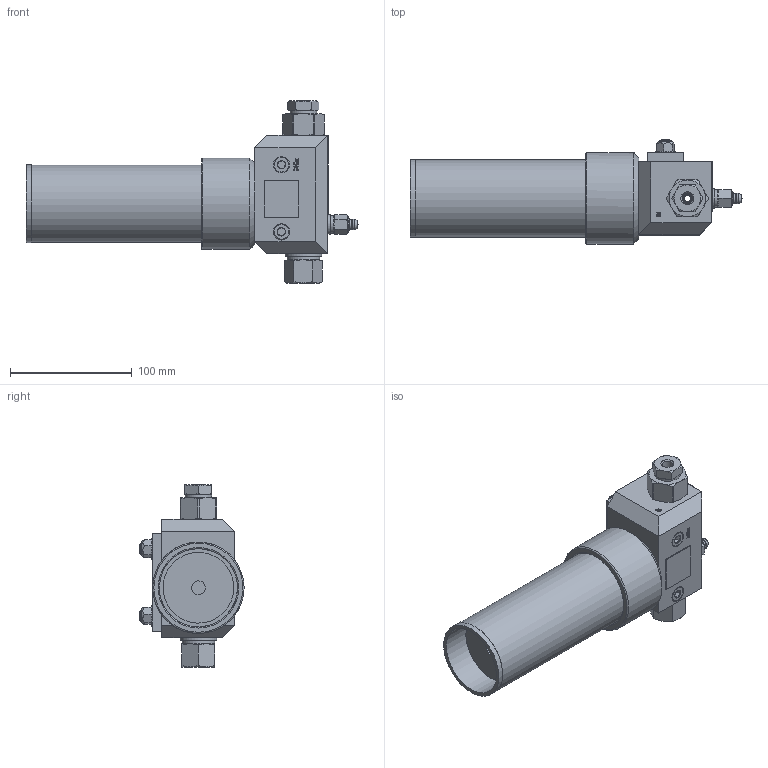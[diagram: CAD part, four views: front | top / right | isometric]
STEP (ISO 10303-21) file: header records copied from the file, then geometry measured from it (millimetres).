
FILE_DESCRIPTION(/* description */ ('Unknown'),/* implementation_level */ '2;1');
FILE_NAME(/* name */ 'MGH-TNLN-KX0000_363103',/* time_stamp */ '2024-12-02T08:17:43+02:00',/* author */ ('Unknown'),/* organization */ ('Unknown'),/* preprocessor_version */ 'ST-DEVELOPER v16.7',/* originating_system */ 'Solid Edge',/* authorisation */ 'Unknown');
FILE_SCHEMA (('AUTOMOTIVE_DESIGN {1 0 10303 214 3 1 1}'));
Length unit declared in the file: millimetre
Products named in the file (1): MGH-TNLN-KX0000_363103
Bounding box: 272.29 x 85.5 x 149.3 mm (x, y, z)
Volume: 490115.5 mm3; surface area: 210227.4 mm2
Topology: 23 solids, 23 shells, 550 faces, 1198 edges, 760 vertices
Faces by surface type: plane 212, cylinder 127, cone 107, bspline 70, torus 33, sphere 1
Full cylindrical faces by diameter (mm): 1.5 x1, 1.667 x1, 4.5 x1, 4.917 x1, 5.01 x2, 6 x2, 6.2 x1, 6.647 x2, 7.8 x1, 7.925 x1, 8 x4, 8.3 x1, 8.4 x2, 8.5 x2, 8.566 x2, 8.6 x2, 8.7 x1, 8.915 x1, 9.382 x2, 9.728 x1, 10.2 x1, 10.9 x1, 11.275 x1, 11.445 x1, 11.5 x2, 11.7 x1, 12.5 x2, 13 x2, 13.5 x3, 13.875 x1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
Entity records: 21007 total; most frequent: CARTESIAN_POINT 8866, DIRECTION 1927, ORIENTED_EDGE 1830, EDGE_CURVE 915, FACE_BOUND 853, EDGE_LOOP 851, AXIS2_PLACEMENT_3D 829, VERTEX_POINT 680
